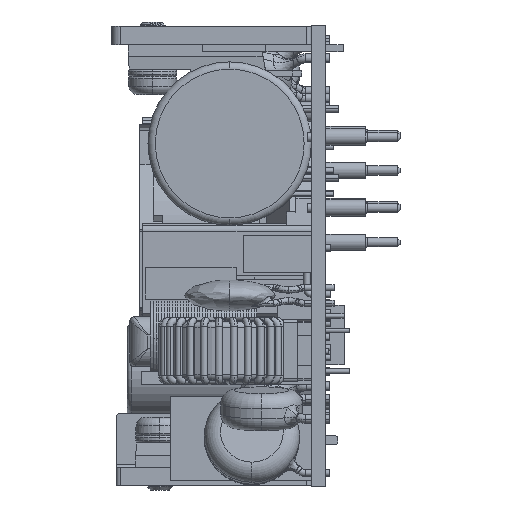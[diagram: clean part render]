
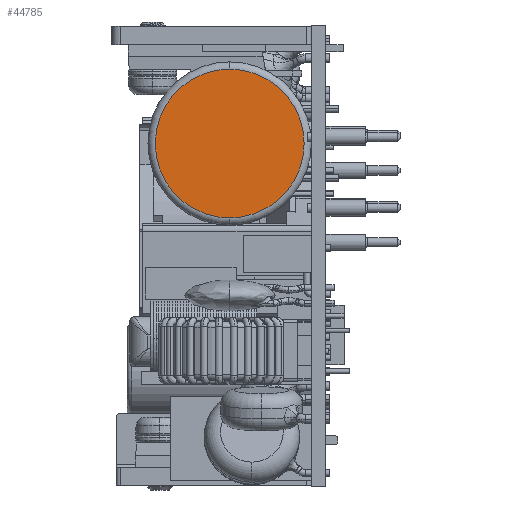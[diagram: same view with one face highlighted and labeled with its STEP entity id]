
A CAD part, left-side view. The second image highlights one B-rep face of the part: STEP entity #44785.
In plain terms, the highlighted planar face has unit normal (-1, 0, 0) as drawn and (0, 0, -1) by its records, which use the part's own axes.
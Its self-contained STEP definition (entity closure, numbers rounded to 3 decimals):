
#7546 = ORIENTED_EDGE ( 'NONE', *, *, #40104, .F. ) ;
#20405 = DIRECTION ( 'NONE',  ( 0., 0., 1. ) ) ;
#20733 = AXIS2_PLACEMENT_3D ( 'NONE', #32933, #20405, #55224 ) ;
#22350 = CARTESIAN_POINT ( 'NONE',  ( 8.2, 0., -26.5 ) ) ;
#29700 = DIRECTION ( 'NONE',  ( 0., 0., 1. ) ) ;
#30279 = AXIS2_PLACEMENT_3D ( 'NONE', #64444, #39832, #51910 ) ;
#32933 = CARTESIAN_POINT ( 'NONE',  ( 0., 0., -26.5 ) ) ;
#33428 = EDGE_CURVE ( 'NONE', #50562, #61117, #71976, .T. ) ;
#34966 = PLANE ( 'NONE',  #30279 ) ;
#36260 = ORIENTED_EDGE ( 'NONE', *, *, #33428, .F. ) ;
#39832 = DIRECTION ( 'NONE',  ( 0., 0., 1. ) ) ;
#40104 = EDGE_CURVE ( 'NONE', #61117, #50562, #43941, .T. ) ;
#43941 = CIRCLE ( 'NONE', #20733, 8.2 ) ;
#44785 = ADVANCED_FACE ( 'NONE', ( #71271 ), #34966, .F. ) ;
#46659 = CARTESIAN_POINT ( 'NONE',  ( 0., 0., -26.5 ) ) ;
#50562 = VERTEX_POINT ( 'NONE', #55941 ) ;
#51910 = DIRECTION ( 'NONE',  ( 1., 0., 0. ) ) ;
#54892 = EDGE_LOOP ( 'NONE', ( #7546, #36260 ) ) ;
#55224 = DIRECTION ( 'NONE',  ( 1., 0., 0. ) ) ;
#55941 = CARTESIAN_POINT ( 'NONE',  ( -8.2, 0., -26.5 ) ) ;
#61117 = VERTEX_POINT ( 'NONE', #22350 ) ;
#64444 = CARTESIAN_POINT ( 'NONE',  ( -8.2, 0., -26.5 ) ) ;
#71271 = FACE_OUTER_BOUND ( 'NONE', #54892, .T. ) ;
#71976 = CIRCLE ( 'NONE', #74391, 8.2 ) ;
#74391 = AXIS2_PLACEMENT_3D ( 'NONE', #46659, #29700, #77741 ) ;
#77741 = DIRECTION ( 'NONE',  ( 1., 0., 0. ) ) ;
